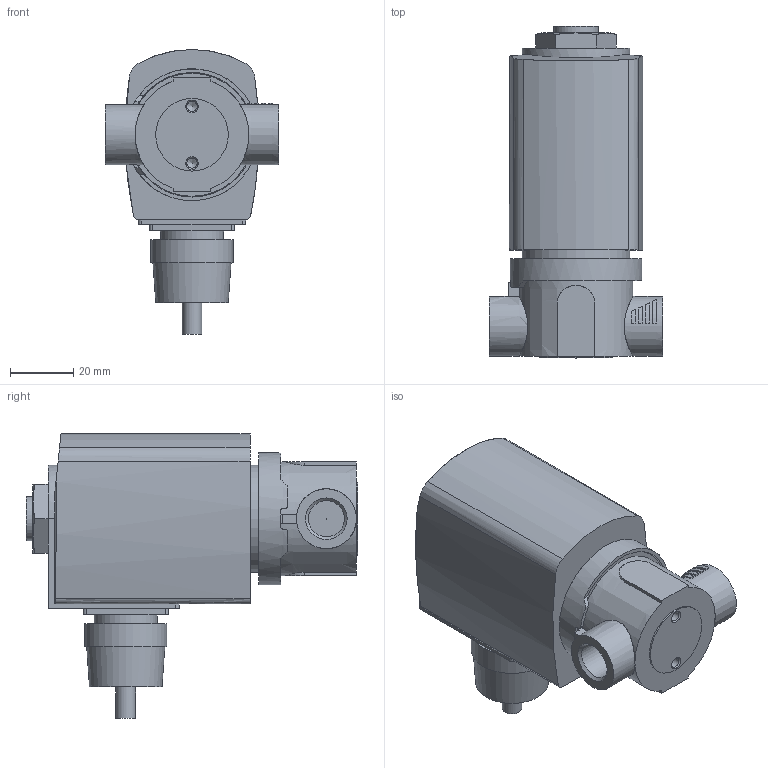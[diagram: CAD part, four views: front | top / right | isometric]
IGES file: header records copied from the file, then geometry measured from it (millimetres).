
Start section: Data from Parasolid IGES Translator 26.0.171, Copyright(c) 2006 Siemens PLM Software. All Rights Reserved.
Global section: file name: 6027-A-3-PTFE___FKM-MS-G_1_4-42-230___UC.igs; native system: By Siemens PLM Incorporated; preprocessor: XPlus GENERIC/IGES 26.0.171; author: Noname; organization: Noname; date: 20240317.065943; units: millimetre
Bounding box: 55 x 105.2 x 90.3 mm (x, y, z)
Surface area: 28858.8 mm2 (no closed solid volume)
Topology: 0 solids, 0 shells, 130 faces, 650 edges, 629 vertices
Faces by surface type: extrusion 71, revolution 59
